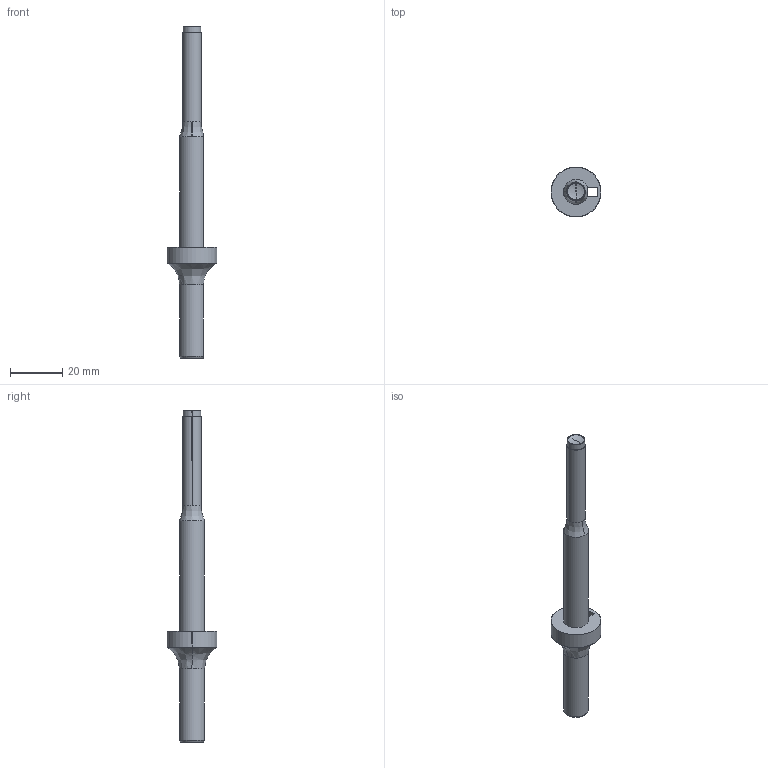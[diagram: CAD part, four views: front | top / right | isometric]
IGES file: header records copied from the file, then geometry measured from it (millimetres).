
Start section: SolidWorks IGES file using analytic representation for surfaces
Global section: file name: C:\Users\IanO\Desktop\SE0508_v2\SE0508_v2_20231218_IGES\Default.igs; native system: SolidWorks 2019; preprocessor: SolidWorks 2019; author: IanO; date: 231218.131221; units: millimetre
Bounding box: 19.06 x 19.06 x 127 mm (x, y, z)
Surface area: 4231.6 mm2 (no closed solid volume)
Topology: 0 solids, 0 shells, 24 faces, 375 edges, 375 vertices
Faces by surface type: revolution 12, bspline 12
